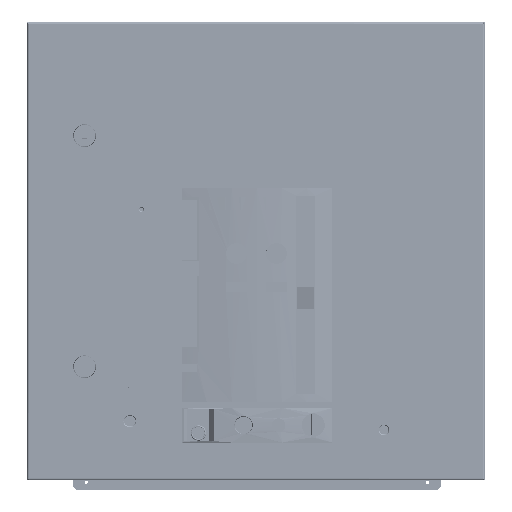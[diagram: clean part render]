
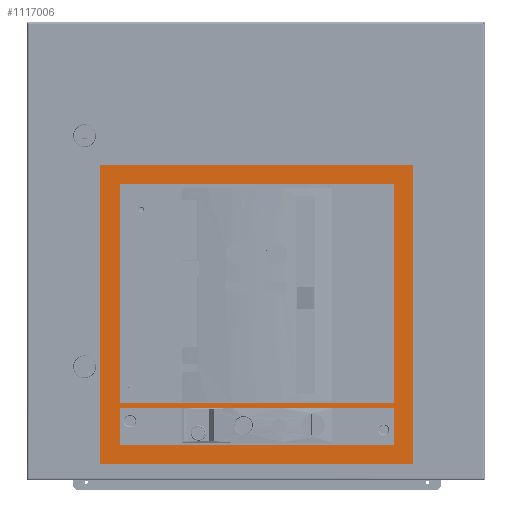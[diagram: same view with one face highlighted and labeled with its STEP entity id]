
A CAD part, top view. The second image highlights one B-rep face of the part: STEP entity #1117006.
In plain terms, the highlighted planar face has unit normal (0, 0, 1).
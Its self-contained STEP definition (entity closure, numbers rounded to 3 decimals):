
#1116251=CARTESIAN_POINT(' ',(-178.1,53.,31.9));
#1116256=DIRECTION(' ',(0.,1.,0.));
#1116261=VECTOR(' ',#1116256,1.);
#1116266=LINE('',#1116251,#1116261);
#1116271=CARTESIAN_POINT(' ',(-178.1,53.,31.9));
#1116272=VERTEX_POINT(' ',#1116271);
#1116276=CARTESIAN_POINT(' ',(-178.1,336.9,31.9));
#1116277=VERTEX_POINT(' ',#1116276);
#1116281=EDGE_CURVE(' ',#1116272,#1116277,#1116266,.T.);
#1116406=DIRECTION(' ',(-0.,-0.,1.));
#1116411=CARTESIAN_POINT(' ',(202.9,-26.9,31.9));
#1116416=DIRECTION(' ',(0.,1.,0.));
#1116421=AXIS2_PLACEMENT_3D(' ',#1116411,#1116406,#1116416);
#1116426=PLANE('NONE',#1116421);
#1116431=CARTESIAN_POINT(' ',(202.9,360.9,31.9));
#1116436=DIRECTION(' ',(0.,-1.,0.));
#1116441=VECTOR(' ',#1116436,1.);
#1116446=LINE('',#1116431,#1116441);
#1116451=CARTESIAN_POINT(' ',(202.9,360.9,31.9));
#1116452=VERTEX_POINT(' ',#1116451);
#1116456=CARTESIAN_POINT(' ',(202.9,-25.9,31.9));
#1116457=VERTEX_POINT(' ',#1116456);
#1116461=EDGE_CURVE(' ',#1116452,#1116457,#1116446,.T.);
#1116466=ORIENTED_EDGE(' ',*,*,#1116461,.F.);
#1116471=CARTESIAN_POINT(' ',(201.9,360.9,31.9));
#1116476=DIRECTION(' ',(0.,0.,1.));
#1116481=DIRECTION(' ',(1.,0.,0.));
#1116486=AXIS2_PLACEMENT_3D(' ',#1116471,#1116476,#1116481);
#1116491=CIRCLE('',#1116486,1.);
#1116496=CARTESIAN_POINT(' ',(201.9,361.9,31.9));
#1116497=VERTEX_POINT(' ',#1116496);
#1116501=EDGE_CURVE(' ',#1116452,#1116497,#1116491,.T.);
#1116506=ORIENTED_EDGE(' ',*,*,#1116501,.T.);
#1116511=CARTESIAN_POINT(' ',(-202.1,361.9,31.9));
#1116516=DIRECTION(' ',(1.,0.,0.));
#1116521=VECTOR(' ',#1116516,1.);
#1116526=LINE('',#1116511,#1116521);
#1116531=CARTESIAN_POINT(' ',(-202.1,361.9,31.9));
#1116532=VERTEX_POINT(' ',#1116531);
#1116536=EDGE_CURVE(' ',#1116532,#1116497,#1116526,.T.);
#1116541=ORIENTED_EDGE(' ',*,*,#1116536,.F.);
#1116546=CARTESIAN_POINT(' ',(-202.1,360.9,31.9));
#1116551=DIRECTION(' ',(-0.,0.,1.));
#1116556=DIRECTION(' ',(0.,1.,0.));
#1116561=AXIS2_PLACEMENT_3D(' ',#1116546,#1116551,#1116556);
#1116566=CIRCLE('',#1116561,1.);
#1116571=CARTESIAN_POINT(' ',(-203.1,360.9,31.9));
#1116572=VERTEX_POINT(' ',#1116571);
#1116576=EDGE_CURVE(' ',#1116532,#1116572,#1116566,.T.);
#1116581=ORIENTED_EDGE(' ',*,*,#1116576,.T.);
#1116586=CARTESIAN_POINT(' ',(-203.1,-25.9,31.9));
#1116591=DIRECTION(' ',(0.,1.,0.));
#1116596=VECTOR(' ',#1116591,1.);
#1116601=LINE('',#1116586,#1116596);
#1116606=CARTESIAN_POINT(' ',(-203.1,-25.9,31.9));
#1116607=VERTEX_POINT(' ',#1116606);
#1116611=EDGE_CURVE(' ',#1116607,#1116572,#1116601,.T.);
#1116616=ORIENTED_EDGE(' ',*,*,#1116611,.F.);
#1116621=CARTESIAN_POINT(' ',(-202.1,-25.9,31.9));
#1116626=DIRECTION(' ',(-0.,-0.,1.));
#1116631=DIRECTION(' ',(-1.,0.,0.));
#1116636=AXIS2_PLACEMENT_3D(' ',#1116621,#1116626,#1116631);
#1116641=CIRCLE('',#1116636,1.);
#1116646=CARTESIAN_POINT(' ',(-202.1,-26.9,31.9));
#1116647=VERTEX_POINT(' ',#1116646);
#1116651=EDGE_CURVE(' ',#1116607,#1116647,#1116641,.T.);
#1116656=ORIENTED_EDGE(' ',*,*,#1116651,.T.);
#1116661=CARTESIAN_POINT(' ',(201.9,-26.9,31.9));
#1116666=DIRECTION(' ',(-1.,0.,0.));
#1116671=VECTOR(' ',#1116666,1.);
#1116676=LINE('',#1116661,#1116671);
#1116681=CARTESIAN_POINT(' ',(201.9,-26.9,31.9));
#1116682=VERTEX_POINT(' ',#1116681);
#1116686=EDGE_CURVE(' ',#1116682,#1116647,#1116676,.T.);
#1116691=ORIENTED_EDGE(' ',*,*,#1116686,.F.);
#1116696=CARTESIAN_POINT(' ',(201.9,-25.9,31.9));
#1116701=DIRECTION(' ',(0.,-0.,1.));
#1116706=DIRECTION(' ',(0.,-1.,0.));
#1116711=AXIS2_PLACEMENT_3D(' ',#1116696,#1116701,#1116706);
#1116716=CIRCLE('',#1116711,1.);
#1116721=EDGE_CURVE(' ',#1116682,#1116457,#1116716,.T.);
#1116726=ORIENTED_EDGE(' ',*,*,#1116721,.T.);
#1116731=EDGE_LOOP(' ',(#1116466,#1116506,#1116541,#1116581,#1116616,#1116656,#1116691,#1116726));
#1116736=FACE_OUTER_BOUND(' ',#1116731,.T.);
#1116741=CARTESIAN_POINT(' ',(177.9,336.9,31.9));
#1116746=DIRECTION(' ',(0.,-1.,0.));
#1116751=VECTOR(' ',#1116746,1.);
#1116756=LINE('',#1116741,#1116751);
#1116761=CARTESIAN_POINT(' ',(177.9,336.9,31.9));
#1116762=VERTEX_POINT(' ',#1116761);
#1116766=CARTESIAN_POINT(' ',(177.9,53.,31.9));
#1116767=VERTEX_POINT(' ',#1116766);
#1116771=EDGE_CURVE(' ',#1116762,#1116767,#1116756,.T.);
#1116776=ORIENTED_EDGE(' ',*,*,#1116771,.T.);
#1116781=CARTESIAN_POINT(' ',(177.9,53.,31.9));
#1116786=DIRECTION(' ',(-1.,0.,0.));
#1116791=VECTOR(' ',#1116786,1.);
#1116796=LINE('',#1116781,#1116791);
#1116801=EDGE_CURVE(' ',#1116767,#1116272,#1116796,.T.);
#1116806=ORIENTED_EDGE(' ',*,*,#1116801,.T.);
#1116811=ORIENTED_EDGE(' ',*,*,#1116281,.T.);
#1116816=CARTESIAN_POINT(' ',(-178.1,336.9,31.9));
#1116821=DIRECTION(' ',(1.,0.,0.));
#1116826=VECTOR(' ',#1116821,1.);
#1116831=LINE('',#1116816,#1116826);
#1116836=EDGE_CURVE(' ',#1116277,#1116762,#1116831,.T.);
#1116841=ORIENTED_EDGE(' ',*,*,#1116836,.T.);
#1116846=EDGE_LOOP(' ',(#1116776,#1116806,#1116811,#1116841));
#1116851=FACE_BOUND(' ',#1116846,.T.);
#1116856=CARTESIAN_POINT(' ',(-178.1,-1.9,31.9));
#1116861=DIRECTION(' ',(0.,1.,0.));
#1116866=VECTOR(' ',#1116861,1.);
#1116871=LINE('',#1116856,#1116866);
#1116876=CARTESIAN_POINT(' ',(-178.1,-1.9,31.9));
#1116877=VERTEX_POINT(' ',#1116876);
#1116881=CARTESIAN_POINT(' ',(-178.1,47.,31.9));
#1116882=VERTEX_POINT(' ',#1116881);
#1116886=EDGE_CURVE(' ',#1116877,#1116882,#1116871,.T.);
#1116891=ORIENTED_EDGE(' ',*,*,#1116886,.T.);
#1116896=CARTESIAN_POINT(' ',(-178.1,47.,31.9));
#1116901=DIRECTION(' ',(1.,0.,0.));
#1116906=VECTOR(' ',#1116901,1.);
#1116911=LINE('',#1116896,#1116906);
#1116916=CARTESIAN_POINT(' ',(177.9,47.,31.9));
#1116917=VERTEX_POINT(' ',#1116916);
#1116921=EDGE_CURVE(' ',#1116882,#1116917,#1116911,.T.);
#1116926=ORIENTED_EDGE(' ',*,*,#1116921,.T.);
#1116931=CARTESIAN_POINT(' ',(177.9,47.,31.9));
#1116936=DIRECTION(' ',(0.,-1.,0.));
#1116941=VECTOR(' ',#1116936,1.);
#1116946=LINE('',#1116931,#1116941);
#1116951=CARTESIAN_POINT(' ',(177.9,-1.9,31.9));
#1116952=VERTEX_POINT(' ',#1116951);
#1116956=EDGE_CURVE(' ',#1116917,#1116952,#1116946,.T.);
#1116961=ORIENTED_EDGE(' ',*,*,#1116956,.T.);
#1116966=CARTESIAN_POINT(' ',(177.9,-1.9,31.9));
#1116971=DIRECTION(' ',(-1.,0.,0.));
#1116976=VECTOR(' ',#1116971,1.);
#1116981=LINE('',#1116966,#1116976);
#1116986=EDGE_CURVE(' ',#1116952,#1116877,#1116981,.T.);
#1116991=ORIENTED_EDGE(' ',*,*,#1116986,.T.);
#1116996=EDGE_LOOP(' ',(#1116891,#1116926,#1116961,#1116991));
#1117001=FACE_BOUND(' ',#1116996,.T.);
#1117006=ADVANCED_FACE('NONE',(#1116736,#1116851,#1117001),#1116426,.T.);
